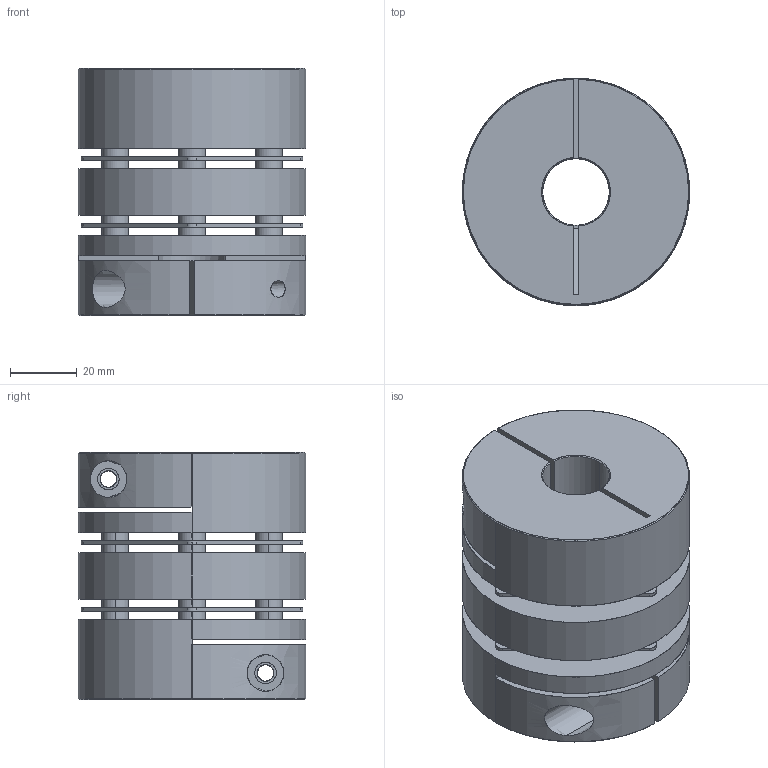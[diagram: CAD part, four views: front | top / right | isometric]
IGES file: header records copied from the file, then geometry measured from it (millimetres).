
Start section: SolidWorks IGES file using analytic representation for surfaces
Bounding box: 68 x 68 x 74 mm (x, y, z)
Surface area: 55066.3 mm2 (no closed solid volume)
Topology: 0 solids, 0 shells, 132 faces, 3081 edges, 3081 vertices
Faces by surface type: revolution 90, bspline 42
